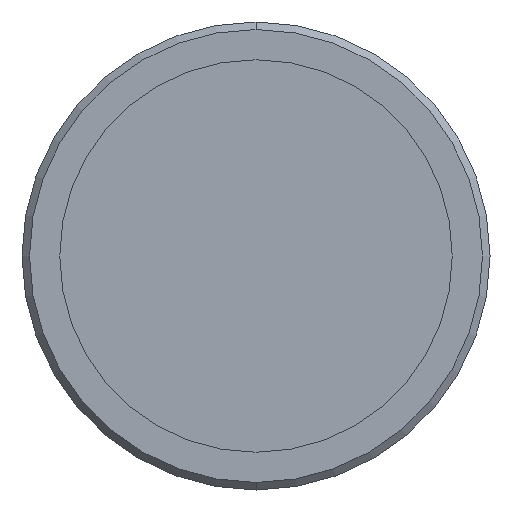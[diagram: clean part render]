
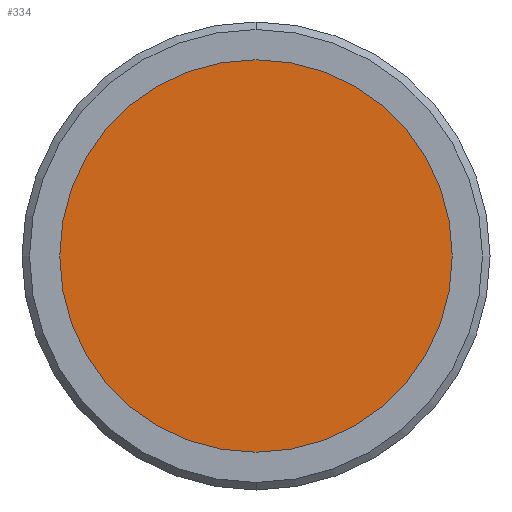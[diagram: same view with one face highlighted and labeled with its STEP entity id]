
A CAD part, front view. The second image highlights one B-rep face of the part: STEP entity #334.
In plain terms, the highlighted planar face has unit normal (0, -1, 0).
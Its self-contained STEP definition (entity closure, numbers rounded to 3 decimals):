
#15 = CIRCLE ( 'NONE', #983, 13. ) ;
#59 = FACE_OUTER_BOUND ( 'NONE', #436, .T. ) ;
#70 = ORIENTED_EDGE ( 'NONE', *, *, #708, .F. ) ;
#243 = DIRECTION ( 'NONE',  ( 0., 0., 1. ) ) ;
#303 = VERTEX_POINT ( 'NONE', #674 ) ;
#315 = CARTESIAN_POINT ( 'NONE',  ( 0., -9., 0. ) ) ;
#332 = DIRECTION ( 'NONE',  ( 0., 1., 0. ) ) ;
#334 = ADVANCED_FACE ( 'NONE', ( #59 ), #409, .T. ) ;
#409 = PLANE ( 'NONE',  #1062 ) ;
#426 = DIRECTION ( 'NONE',  ( 0., -1., 0. ) ) ;
#436 = EDGE_LOOP ( 'NONE', ( #70, #1027 ) ) ;
#441 = DIRECTION ( 'NONE',  ( 0., 0., -1. ) ) ;
#525 = EDGE_CURVE ( 'NONE', #303, #1115, #1020, .T. ) ;
#674 = CARTESIAN_POINT ( 'NONE',  ( 0., -9., -13. ) ) ;
#708 = EDGE_CURVE ( 'NONE', #1115, #303, #15, .T. ) ;
#833 = CARTESIAN_POINT ( 'NONE',  ( 0., -9., 0. ) ) ;
#854 = DIRECTION ( 'NONE',  ( 0., 0., 1. ) ) ;
#925 = DIRECTION ( 'NONE',  ( 0., 1., 0. ) ) ;
#983 = AXIS2_PLACEMENT_3D ( 'NONE', #1009, #332, #243 ) ;
#1009 = CARTESIAN_POINT ( 'NONE',  ( 0., -9., 0. ) ) ;
#1016 = AXIS2_PLACEMENT_3D ( 'NONE', #833, #925, #854 ) ;
#1020 = CIRCLE ( 'NONE', #1016, 13. ) ;
#1027 = ORIENTED_EDGE ( 'NONE', *, *, #525, .F. ) ;
#1057 = CARTESIAN_POINT ( 'NONE',  ( 0., -9., 13. ) ) ;
#1062 = AXIS2_PLACEMENT_3D ( 'NONE', #315, #426, #441 ) ;
#1115 = VERTEX_POINT ( 'NONE', #1057 ) ;
